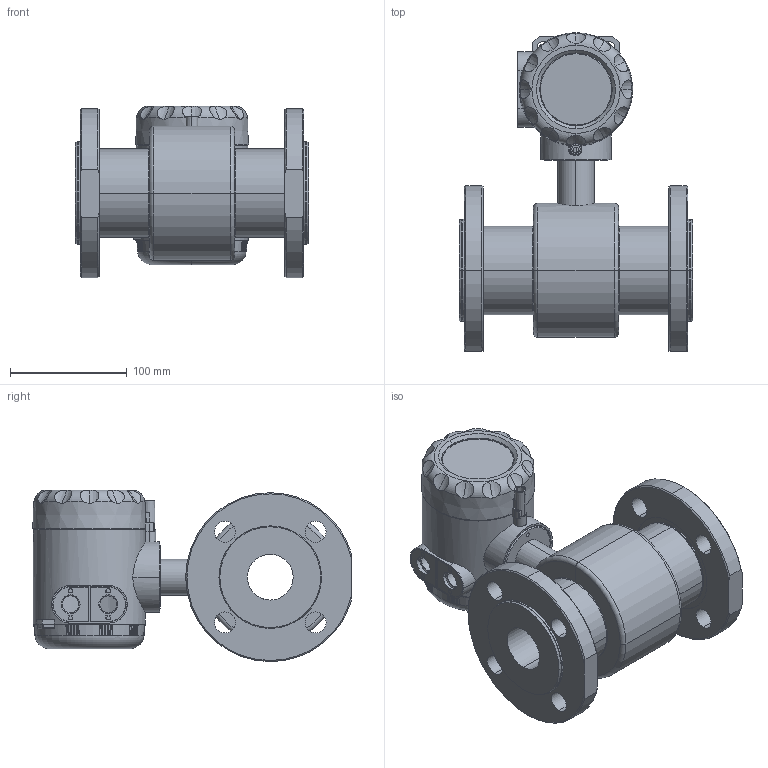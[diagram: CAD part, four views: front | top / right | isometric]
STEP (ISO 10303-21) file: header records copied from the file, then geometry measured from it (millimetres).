
FILE_DESCRIPTION (( 'STEP AP214' ), '1' );
FILE_NAME ('ﾏ頸褞ⅴ ﾏﾐﾎ40.STEP', '2021-07-23T12:48:34', ( '' ), ( '' ), 'SwSTEP 2.0', 'SolidWorks 2016', '' );
FILE_SCHEMA (( 'AUTOMOTIVE_DESIGN' ));
Length unit declared in the file: millimetre
Products named in the file (1): ﾏ頸褞ⅴ ﾏﾐﾎ40
Bounding box: 200 x 273.34 x 146.98 mm (x, y, z)
Surface area: 235847.8 mm2 (no closed solid volume)
Topology: 0 solids, 18 shells, 456 faces, 1521 edges, 1038 vertices
Faces by surface type: plane 162, cone 119, cylinder 109, torus 55, bspline 9, sphere 2
Entity records: 23641 total; most frequent: CARTESIAN_POINT 5645, DIRECTION 2854, ORIENTED_EDGE 2347, EDGE_CURVE 1519, AXIS2_PLACEMENT_3D 1096, VERTEX_POINT 1038, LINE 662, VECTOR 662
